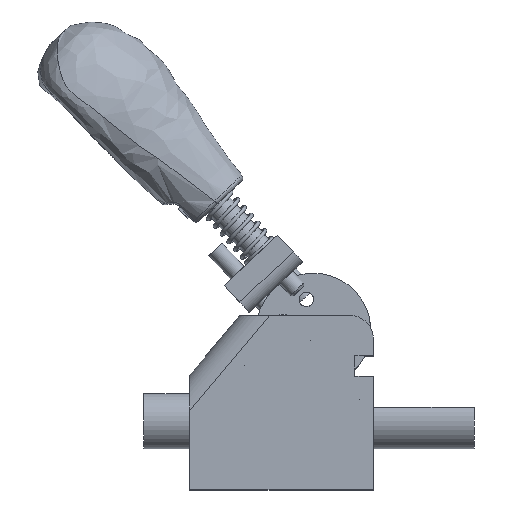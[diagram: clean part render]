
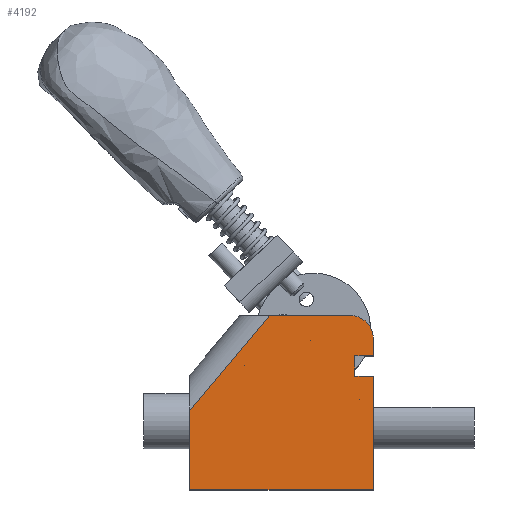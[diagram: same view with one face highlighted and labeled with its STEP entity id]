
A CAD part, top view. The second image highlights one B-rep face of the part: STEP entity #4192.
In plain terms, the highlighted planar face has unit normal (0, 0, 1).
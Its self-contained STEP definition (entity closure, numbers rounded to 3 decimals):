
#323=FACE_BOUND('',#808,.T.);
#324=FACE_BOUND('',#809,.T.);
#325=FACE_BOUND('',#810,.T.);
#383=CIRCLE('',#4610,5.);
#384=CIRCLE('',#4611,0.005);
#385=CIRCLE('',#4612,0.005);
#386=CIRCLE('',#4613,0.005);
#576=FACE_OUTER_BOUND('',#807,.T.);
#807=EDGE_LOOP('',(#2841,#2842,#2843,#2844,#2845,#2846,#2847,#2848,#2849,
#2850));
#808=EDGE_LOOP('',(#2851));
#809=EDGE_LOOP('',(#2852));
#810=EDGE_LOOP('',(#2853));
#1088=LINE('',#6213,#1417);
#1096=LINE('',#6229,#1425);
#1102=LINE('',#6241,#1431);
#1111=LINE('',#6266,#1440);
#1112=LINE('',#6270,#1441);
#1113=LINE('',#6272,#1442);
#1114=LINE('',#6274,#1443);
#1115=LINE('',#6276,#1444);
#1116=LINE('',#6277,#1445);
#1417=VECTOR('',#5031,10.);
#1425=VECTOR('',#5043,10.);
#1431=VECTOR('',#5053,10.);
#1440=VECTOR('',#5074,10.);
#1441=VECTOR('',#5077,10.);
#1442=VECTOR('',#5078,10.);
#1443=VECTOR('',#5079,10.);
#1444=VECTOR('',#5080,10.);
#1445=VECTOR('',#5081,10.);
#1746=VERTEX_POINT('',#6210);
#1747=VERTEX_POINT('',#6212);
#1753=VERTEX_POINT('',#6227);
#1757=VERTEX_POINT('',#6239);
#1767=VERTEX_POINT('',#6265);
#1768=VERTEX_POINT('',#6267);
#1769=VERTEX_POINT('',#6269);
#1770=VERTEX_POINT('',#6271);
#1771=VERTEX_POINT('',#6273);
#1772=VERTEX_POINT('',#6275);
#1773=VERTEX_POINT('',#6278);
#1774=VERTEX_POINT('',#6280);
#1775=VERTEX_POINT('',#6282);
#2174=EDGE_CURVE('',#1747,#1746,#1088,.T.);
#2182=EDGE_CURVE('',#1746,#1753,#1096,.T.);
#2188=EDGE_CURVE('',#1753,#1757,#1102,.T.);
#2200=EDGE_CURVE('',#1767,#1757,#1111,.T.);
#2201=EDGE_CURVE('',#1768,#1767,#383,.T.);
#2202=EDGE_CURVE('',#1769,#1768,#1112,.T.);
#2203=EDGE_CURVE('',#1770,#1769,#1113,.T.);
#2204=EDGE_CURVE('',#1771,#1770,#1114,.T.);
#2205=EDGE_CURVE('',#1772,#1771,#1115,.T.);
#2206=EDGE_CURVE('',#1747,#1772,#1116,.T.);
#2207=EDGE_CURVE('',#1773,#1773,#384,.T.);
#2208=EDGE_CURVE('',#1774,#1774,#385,.T.);
#2209=EDGE_CURVE('',#1775,#1775,#386,.T.);
#2841=ORIENTED_EDGE('',*,*,#2174,.T.);
#2842=ORIENTED_EDGE('',*,*,#2182,.T.);
#2843=ORIENTED_EDGE('',*,*,#2188,.T.);
#2844=ORIENTED_EDGE('',*,*,#2200,.F.);
#2845=ORIENTED_EDGE('',*,*,#2201,.F.);
#2846=ORIENTED_EDGE('',*,*,#2202,.F.);
#2847=ORIENTED_EDGE('',*,*,#2203,.F.);
#2848=ORIENTED_EDGE('',*,*,#2204,.F.);
#2849=ORIENTED_EDGE('',*,*,#2205,.F.);
#2850=ORIENTED_EDGE('',*,*,#2206,.F.);
#2851=ORIENTED_EDGE('',*,*,#2207,.T.);
#2852=ORIENTED_EDGE('',*,*,#2208,.T.);
#2853=ORIENTED_EDGE('',*,*,#2209,.T.);
#4081=PLANE('',#4609);
#4192=ADVANCED_FACE('',(#576,#323,#324,#325),#4081,.T.);
#4609=AXIS2_PLACEMENT_3D('',#6264,#5072,#5073);
#4610=AXIS2_PLACEMENT_3D('',#6268,#5075,#5076);
#4611=AXIS2_PLACEMENT_3D('',#6279,#5082,#5083);
#4612=AXIS2_PLACEMENT_3D('',#6281,#5084,#5085);
#4613=AXIS2_PLACEMENT_3D('',#6283,#5086,#5087);
#5031=DIRECTION('',(-1.,0.,0.));
#5043=DIRECTION('',(0.,1.,0.));
#5053=DIRECTION('',(1.,0.,0.));
#5072=DIRECTION('center_axis',(0.,0.,1.));
#5073=DIRECTION('ref_axis',(1.,0.,0.));
#5074=DIRECTION('',(0.,-1.,0.));
#5075=DIRECTION('center_axis',(0.,0.,-1.));
#5076=DIRECTION('ref_axis',(0.707,0.707,0.));
#5077=DIRECTION('',(1.,0.,0.));
#5078=DIRECTION('',(0.643,0.766,0.));
#5079=DIRECTION('',(0.,1.,0.));
#5080=DIRECTION('',(-1.,0.,0.));
#5081=DIRECTION('',(0.,-1.,0.));
#5082=DIRECTION('center_axis',(0.,0.,-1.));
#5083=DIRECTION('ref_axis',(-1.,0.,0.));
#5084=DIRECTION('center_axis',(0.,0.,-1.));
#5085=DIRECTION('ref_axis',(-1.,0.,0.));
#5086=DIRECTION('center_axis',(0.,0.,-1.));
#5087=DIRECTION('ref_axis',(-1.,0.,0.));
#6210=CARTESIAN_POINT('',(1069.56,83.203,20.));
#6212=CARTESIAN_POINT('',(1073.56,83.203,20.));
#6213=CARTESIAN_POINT('',(1062.136,83.203,20.));
#6227=CARTESIAN_POINT('',(1069.56,87.603,20.));
#6229=CARTESIAN_POINT('',(1069.56,81.974,20.));
#6239=CARTESIAN_POINT('',(1073.56,87.603,20.));
#6241=CARTESIAN_POINT('',(1064.136,87.603,20.));
#6264=CARTESIAN_POINT('Origin',(1054.713,76.345,20.));
#6265=CARTESIAN_POINT('',(1073.56,91.403,20.));
#6266=CARTESIAN_POINT('',(1073.56,96.403,20.));
#6267=CARTESIAN_POINT('',(1068.56,96.403,20.));
#6268=CARTESIAN_POINT('Origin',(1068.56,91.403,20.));
#6269=CARTESIAN_POINT('',(1050.995,96.403,20.));
#6270=CARTESIAN_POINT('',(1044.468,96.403,20.));
#6271=CARTESIAN_POINT('',(1033.56,75.624,20.));
#6272=CARTESIAN_POINT('',(1040.023,83.326,20.));
#6273=CARTESIAN_POINT('',(1033.56,58.403,20.));
#6274=CARTESIAN_POINT('',(1033.56,58.403,20.));
#6275=CARTESIAN_POINT('',(1073.56,58.403,20.));
#6276=CARTESIAN_POINT('',(1073.56,58.403,20.));
#6277=CARTESIAN_POINT('',(1073.56,96.403,20.));
#6278=CARTESIAN_POINT('',(1059.865,90.903,20.));
#6279=CARTESIAN_POINT('Origin',(1059.86,90.903,20.));
#6280=CARTESIAN_POINT('',(1070.565,78.003,20.));
#6281=CARTESIAN_POINT('Origin',(1070.56,78.003,20.));
#6282=CARTESIAN_POINT('',(1045.565,85.453,20.));
#6283=CARTESIAN_POINT('Origin',(1045.56,85.453,20.));
